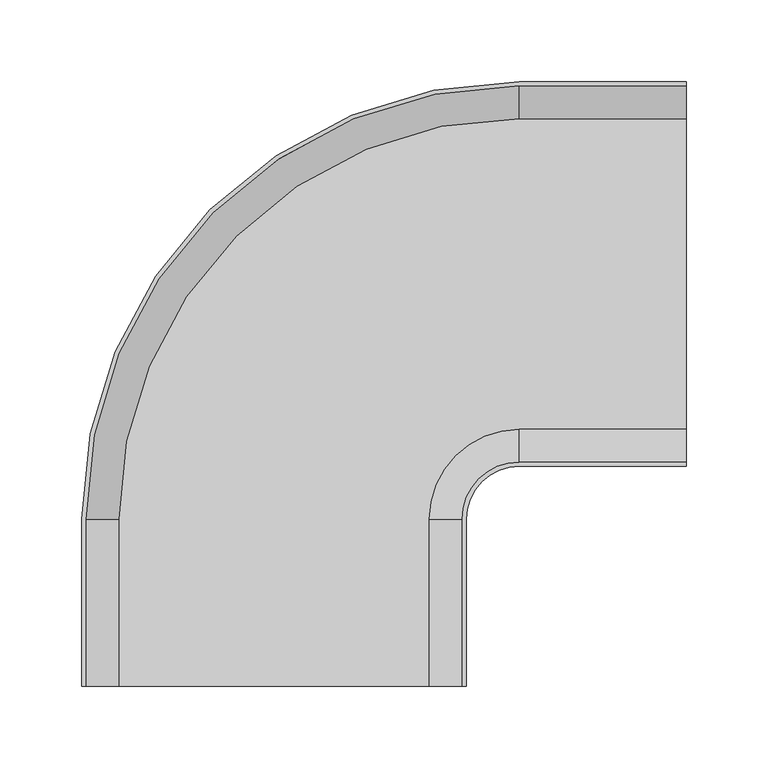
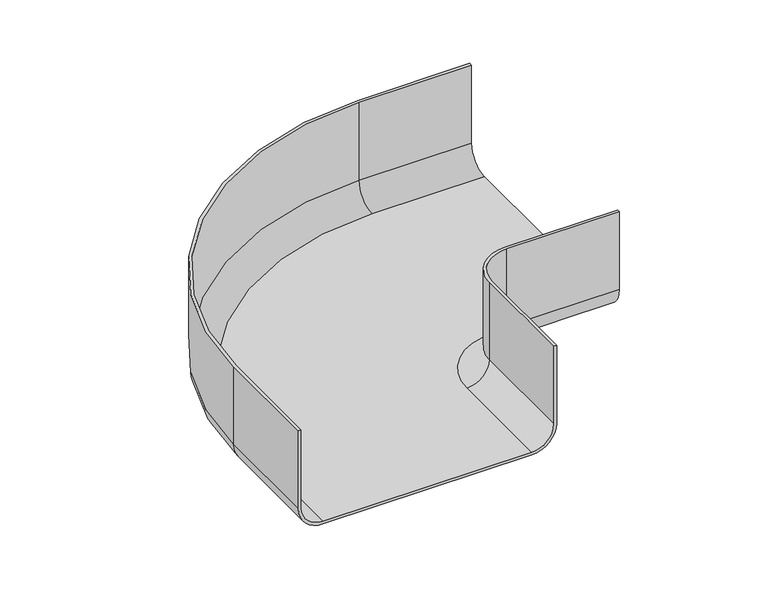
"""IFC4 building model written with IfcOpenShell, lengths in millimetres: cable carrier fitting geometry, CCT_Hyperline_FBTR_ELB90 Горизонтальный изгиб на 90° пластиковый : Горизонтальный изгиб на 90° пластиковый."""

from ifc_helpers import new_model, si_unit, point, frame, origin, place, context, project, spatial, polyline, circle_curve, ellipse_curve, trimmed, source, transform, mapped, element, save
from ifc_brep_helpers import plane_surface, cylinder_surface, revolved_surface, advanced_brep


def cable_carrier_fitting_38266bb1(model_context):
    return source(origin(), model_context, "Body", "AdvancedBrep", [
        advanced_brep(
        [(252.0, -117.54, -25.0), (252.0, -95.0, -47.54), (252.0, 95.0, -47.54), (252.0, 117.54, -25.0), (252.0, 117.54, 50.0), (252.0, 115.0, 50.0), (252.0, 115.0, -25.0), (252.0, 95.0, -45.0), (252.0, -95.0, -45.0), (252.0, -115.0, -25.0), (252.0, -115.0, 50.0), (252.0, -117.54, 50.0), (150.0, -117.54, -25.0), (150.0, -95.0, -47.54), (150.0, -95.0, -45.0), (150.0, -115.0, -25.0), (150.0, -115.0, 50.0), (115.0, -150.0, 50.0), (115.0, -252.0, 50.0), (117.54, -252.0, 50.0), (117.54, -150.0, 50.0), (150.0, -117.54, 50.0), (95.0, -150.0, -47.54), (117.54, -150.0, -25.0), (115.0, -150.0, -25.0), (95.0, -150.0, -45.0), (117.54, -252.0, -25.0), (115.0, -252.0, -25.0), (95.0, -252.0, -45.0), (-95.0, -252.0, -45.0), (-115.0, -252.0, -25.0), (-115.0, -252.0, 50.0), (-117.54, -252.0, 50.0), (-117.54, -252.0, -25.0), (-95.0, -252.0, -47.54), (95.0, -252.0, -47.54), (150.0, 95.0, -47.54), (150.0, 117.54, -25.0), (150.0, 117.54, 50.0), (-117.54, -150.0, 50.0), (-115.0, -150.0, 50.0), (150.0, 115.0, 50.0), (150.0, 115.0, -25.0), (150.0, 95.0, -45.0), (-117.54, -150.0, -25.0), (-95.0, -150.0, -47.54), (-115.0, -150.0, -25.0), (-95.0, -150.0, -45.0)],
        [
            (0, 1, circle_curve(frame((252.0, -95.0, -25.0), z_axis=(1.0, 0.0, 0.0), x_axis=(0.0, -1.0, 0.0)), 22.54)),
            (1, 2),
            (2, 3, circle_curve(frame((252.0, 95.0, -25.0), z_axis=(1.0, 0.0, 0.0), x_axis=(0.0, -1.0, 0.0)), 22.54)),
            (3, 4),
            (4, 5),
            (5, 6),
            (6, 7, circle_curve(frame((252.0, 95.0, -25.0), z_axis=(-1.0, 0.0, 0.0), x_axis=(0.0, -1.0, 0.0)), 20.0)),
            (7, 8),
            (8, 9, circle_curve(frame((252.0, -95.0, -25.0), z_axis=(-1.0, 0.0, 0.0), x_axis=(0.0, -1.0, 0.0)), 20.0)),
            (9, 10),
            (10, 11),
            (11, 0),
            (0, 12),
            (12, 13, circle_curve(frame((150.0, -95.0, -25.0), z_axis=(1.0, 0.0, 0.0), x_axis=(0.0, -1.0, 0.0)), 22.54)),
            (13, 1),
            (8, 14),
            (14, 15, circle_curve(frame((150.0, -95.0, -25.0), z_axis=(-1.0, 0.0, 0.0), x_axis=(0.0, -1.0, 0.0)), 20.0)),
            (15, 9),
            (15, 16),
            (16, 10),
            (16, 17, circle_curve(frame((150.0, -150.0, 50.0), z_axis=(0.0, 0.0, 1.0), x_axis=(0.0, 1.0, 0.0)), 35.0)),
            (17, 18),
            (18, 19),
            (19, 20),
            (20, 21, circle_curve(frame((150.0, -150.0, 50.0), z_axis=(0.0, 0.0, -1.0), x_axis=(0.0, 1.0, 0.0)), 32.46)),
            (21, 11),
            (21, 12),
            (22, 13, circle_curve(frame((150.0, -150.0, -47.54), z_axis=(0.0, 0.0, -1.0), x_axis=(0.0, 1.0, 0.0)), 55.0)),
            (12, 23, circle_curve(frame((150.0, -150.0, -25.0), z_axis=(0.0, 0.0, 1.0), x_axis=(0.0, 1.0, 0.0)), 32.46)),
            (23, 22, circle_curve(frame((95.0, -150.0, -25.0), z_axis=(0.0, 1.0, 0.0), x_axis=(1.0, 0.0, 0.0)), 22.54)),
            (24, 15, circle_curve(frame((150.0, -150.0, -25.0), z_axis=(0.0, 0.0, -1.0), x_axis=(0.0, 1.0, 0.0)), 35.0)),
            (14, 25, circle_curve(frame((150.0, -150.0, -45.0), z_axis=(0.0, 0.0, 1.0), x_axis=(0.0, 1.0, 0.0)), 55.0)),
            (25, 24, circle_curve(frame((95.0, -150.0, -25.0), z_axis=(0.0, -1.0, 0.0), x_axis=(1.0, 0.0, 0.0)), 20.0)),
            (24, 17),
            (20, 23),
            (26, 19),
            (18, 27),
            (27, 28, circle_curve(frame((95.0, -252.0, -25.0), z_axis=(0.0, 1.0, 0.0), x_axis=(1.0, 0.0, 0.0)), 20.0)),
            (28, 29),
            (29, 30, circle_curve(frame((-95.0, -252.0, -25.0), z_axis=(0.0, 1.0, 0.0), x_axis=(1.0, 0.0, 0.0)), 20.0)),
            (30, 31),
            (31, 32),
            (32, 33),
            (33, 34, circle_curve(frame((-95.0, -252.0, -25.0), z_axis=(0.0, -1.0, 0.0), x_axis=(1.0, 0.0, 0.0)), 22.54)),
            (34, 35),
            (35, 26, circle_curve(frame((95.0, -252.0, -25.0), z_axis=(0.0, -1.0, 0.0), x_axis=(1.0, 0.0, 0.0)), 22.54)),
            (23, 26),
            (35, 22),
            (25, 28),
            (27, 24),
            (2, 36),
            (36, 37, circle_curve(frame((150.0, 95.0, -25.0), z_axis=(1.0, 0.0, 0.0), x_axis=(0.0, -1.0, 0.0)), 22.54)),
            (37, 3),
            (37, 38),
            (38, 4),
            (38, 39, circle_curve(frame((150.0, -150.0, 50.0), z_axis=(0.0, 0.0, 1.0), x_axis=(0.0, 1.0, 0.0)), 267.54)),
            (39, 32),
            (31, 40),
            (40, 41, circle_curve(frame((150.0, -150.0, 50.0), z_axis=(0.0, 0.0, -1.0), x_axis=(0.0, 1.0, 0.0)), 265.0)),
            (41, 5),
            (41, 42),
            (42, 6),
            (42, 43, circle_curve(frame((150.0, 95.0, -25.0), z_axis=(-1.0, 0.0, 0.0), x_axis=(0.0, -1.0, 0.0)), 20.0)),
            (43, 7),
            (44, 37, circle_curve(frame((150.0, -150.0, -25.0), z_axis=(0.0, 0.0, -1.0), x_axis=(0.0, 1.0, 0.0)), 267.54)),
            (36, 45, circle_curve(frame((150.0, -150.0, -47.54), z_axis=(0.0, 0.0, 1.0), x_axis=(0.0, 1.0, 0.0)), 245.0)),
            (45, 44, circle_curve(frame((-95.0, -150.0, -25.0), z_axis=(0.0, 1.0, 0.0), x_axis=(1.0, 0.0, 0.0)), 22.54)),
            (44, 39),
            (46, 42, circle_curve(frame((150.0, -150.0, -25.0), z_axis=(0.0, 0.0, -1.0), x_axis=(0.0, 1.0, 0.0)), 265.0)),
            (40, 46),
            (47, 43, circle_curve(frame((150.0, -150.0, -45.0), z_axis=(0.0, 0.0, -1.0), x_axis=(0.0, 1.0, 0.0)), 245.0)),
            (46, 47, circle_curve(frame((-95.0, -150.0, -25.0), z_axis=(0.0, -1.0, 0.0), x_axis=(1.0, 0.0, 0.0)), 20.0)),
            (45, 34),
            (33, 44),
            (30, 46),
            (29, 47),
        ],
        [
            plane_surface(frame((252.0, -115.0, 0.0), z_axis=(1.0, 0.0, 0.0), x_axis=(0.0, 0.0, 1.0))),
            cylinder_surface(frame((252.0, -95.0, -25.0), z_axis=(1.0, 0.0, 0.0), x_axis=(0.0, -1.0, 0.0)), 22.54),
            revolved_surface(polyline([(150.0, -115.0, -25.0), (252.0, -115.0, -25.0)]), (252.0, -95.0, -25.0), (-1.0, 0.0, 0.0)),
            plane_surface(frame((252.0, -115.0, -25.0), z_axis=(0.0, 1.0, 0.0), x_axis=(-1.0, 0.0, 0.0))),
            plane_surface(frame((252.0, -115.0, 50.0), z_axis=(0.0, 0.0, 1.0), x_axis=(-1.0, 0.0, 0.0))),
            plane_surface(frame((252.0, -117.54, 50.0), z_axis=(0.0, -1.0, 0.0), x_axis=(-1.0, 0.0, 0.0))),
            revolved_surface(trimmed(ellipse_curve(frame((150.0, -95.0, -25.0), z_axis=(1.0, 0.0, 0.0), x_axis=(0.0, -1.0, 0.0)), 22.54, 22.54), [point((150.0, -117.54, -25.0))], [point((150.0, -95.0, -47.54))], True, "CARTESIAN"), (150.0, -150.0, 0.0), (0.0, 0.0, 1.0)),
            revolved_surface(trimmed(ellipse_curve(frame((150.0, -95.0, -25.0), z_axis=(-1.0, 0.0, 0.0), x_axis=(0.0, -1.0, 0.0)), 20.0, 20.0), [point((150.0, -95.0, -45.0))], [point((150.0, -115.0, -25.0))], True, "CARTESIAN"), (150.0, -150.0, 0.0), (0.0, 0.0, 1.0)),
            cylinder_surface(frame((150.0, -150.0, 0.0), z_axis=(0.0, 0.0, 1.0), x_axis=(0.0, 1.0, 0.0)), 35.0),
            revolved_surface(polyline([(150.0, -117.53999999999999, 50.0), (150.0, -117.53999999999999, -25.0)]), (150.0, -150.0, 0.0), (0.0, 0.0, 1.0)),
            plane_surface(frame((115.0, -252.0, 0.0), z_axis=(0.0, -1.0, 0.0), x_axis=(0.0, 0.0, 1.0))),
            cylinder_surface(frame((95.0, -150.0, -25.0), z_axis=(0.0, 1.0, 0.0), x_axis=(1.0, 0.0, 0.0)), 22.54),
            revolved_surface(polyline([(115.0, -252.0, -25.0), (115.0, -150.0, -25.0)]), (95.0, -150.0, -25.0), (0.0, -1.0, 0.0)),
            plane_surface(frame((115.0, -150.0, -25.0), z_axis=(-1.0, 0.0, 0.0), x_axis=(0.0, -1.0, 0.0))),
            plane_surface(frame((117.54, -150.0, 50.0), z_axis=(1.0, 0.0, 0.0), x_axis=(0.0, -1.0, 0.0))),
            cylinder_surface(frame((252.0, 95.0, -25.0), z_axis=(1.0, 0.0, 0.0), x_axis=(0.0, -1.0, 0.0)), 22.54),
            plane_surface(frame((252.0, 117.54, -25.0), z_axis=(0.0, 1.0, 0.0), x_axis=(-1.0, 0.0, 0.0))),
            plane_surface(frame((252.0, 117.54, 50.0), z_axis=(0.0, 0.0, 1.0), x_axis=(-1.0, 0.0, 0.0))),
            plane_surface(frame((252.0, 115.0, 50.0), z_axis=(0.0, -1.0, 0.0), x_axis=(-1.0, 0.0, 0.0))),
            revolved_surface(polyline([(150.0, 75.0, -25.0), (252.0, 75.0, -25.0)]), (252.0, 95.0, -25.0), (-1.0, 0.0, 0.0)),
            revolved_surface(trimmed(ellipse_curve(frame((150.0, 95.0, -25.0), z_axis=(1.0, 0.0, 0.0), x_axis=(0.0, -1.0, 0.0)), 22.54, 22.54), [point((150.0, 95.0, -47.54))], [point((150.0, 117.54, -25.0))], True, "CARTESIAN"), (150.0, -150.0, 0.0), (0.0, 0.0, 1.0)),
            cylinder_surface(frame((150.0, -150.0, 0.0), z_axis=(0.0, 0.0, 1.0), x_axis=(0.0, 1.0, 0.0)), 267.54),
            revolved_surface(polyline([(150.0, 115.0, 50.0), (150.0, 115.0, -25.0)]), (150.0, -150.0, 0.0), (0.0, 0.0, 1.0)),
            revolved_surface(trimmed(ellipse_curve(frame((150.0, 95.0, -25.0), z_axis=(-1.0, 0.0, 0.0), x_axis=(0.0, -1.0, 0.0)), 20.0, 20.0), [point((150.0, 115.0, -25.0))], [point((150.0, 95.0, -45.0))], True, "CARTESIAN"), (150.0, -150.0, 0.0), (0.0, 0.0, 1.0)),
            cylinder_surface(frame((-95.0, -150.0, -25.0), z_axis=(0.0, 1.0, 0.0), x_axis=(1.0, 0.0, 0.0)), 22.54),
            plane_surface(frame((-117.54, -150.0, -25.0), z_axis=(-1.0, 0.0, 0.0), x_axis=(0.0, -1.0, 0.0))),
            plane_surface(frame((-115.0, -150.0, 50.0), z_axis=(1.0, 0.0, 0.0), x_axis=(0.0, -1.0, 0.0))),
            revolved_surface(polyline([(-75.0, -252.0, -25.0), (-75.0, -150.0, -25.0)]), (-95.0, -150.0, -25.0), (0.0, -1.0, 0.0)),
            plane_surface(frame((252.0, -95.0, -47.54), z_axis=(0.0, 0.0, -1.0), x_axis=(-1.0, 0.0, 0.0))),
            plane_surface(frame((252.0, 95.0, -45.0), z_axis=(0.0, 0.0, 1.0), x_axis=(-1.0, 0.0, 0.0))),
        ],
        [
            (0, [[1, 2, 3, 4, 5, 6, 7, 8, 9, 10, 11, 12]]),
            (1, [[-1, 13, 14, 15]]),
            (2, [[-9, 16, 17, 18]]),
            (3, [[-10, -18, 19, 20]]),
            (4, [[-11, -20, 21, 22, 23, 24, 25, 26]]),
            (5, [[-12, -26, 27, -13]]),
            (6, [[28, -14, 29, 30]]),
            (7, [[31, -17, 32, 33]]),
            (8, [[-21, -19, -31, 34]]),
            (9, [[-29, -27, -25, 35]]),
            (10, [[36, -23, 37, 38, 39, 40, 41, 42, 43, 44, 45, 46]]),
            (11, [[-30, 47, -46, 48]]),
            (12, [[-33, 49, -38, 50]]),
            (13, [[-34, -50, -37, -22]]),
            (14, [[-35, -24, -36, -47]]),
            (15, [[-3, 51, 52, 53]]),
            (16, [[-4, -53, 54, 55]]),
            (17, [[-5, -55, 56, 57, -42, 58, 59, 60]]),
            (18, [[-6, -60, 61, 62]]),
            (19, [[-7, -62, 63, 64]]),
            (20, [[65, -52, 66, 67]]),
            (21, [[-56, -54, -65, 68]]),
            (22, [[69, -61, -59, 70]]),
            (23, [[71, -63, -69, 72]]),
            (24, [[-67, 73, -44, 74]]),
            (25, [[-68, -74, -43, -57]]),
            (26, [[-70, -58, -41, 75]]),
            (27, [[-72, -75, -40, 76]]),
            (28, [[-2, -15, -28, -48, -45, -73, -66, -51]]),
            (29, [[-8, -64, -71, -76, -39, -49, -32, -16]]),
        ],
    ),
    ])


if __name__ == "__main__":
    model = new_model("IFC4")
    model_context = context("Model", 3, world=origin())
    ifc_project = project(units=[si_unit("LENGTHUNIT", "METRE", prefix="MILLI")], contexts=[model_context])
    site = spatial("IfcSite", under=ifc_project)
    building = spatial("IfcBuilding", under=site)
    placement = place(None, origin())
    cable_carrier_fitting_shape = cable_carrier_fitting_38266bb1(model_context)
    element("IfcCableCarrierFitting", 1, ObjectType="CCT_Hyperline_FBTR_ELB90 Горизонтальный изгиб на 90° пластиковый : Горизонтальный изгиб на 90° пластиковый", at=placement, inside=building, context=model_context, shape_type="MappedRepresentation", body=[
        mapped(cable_carrier_fitting_shape, transform((0.0, 0.0, 0.0), x_axis=(1.0, 0.0, 0.0), y_axis=(0.0, 1.0, 0.0), z_axis=(0.0, 0.0, 1.0))),
    ])
    save(model, "model.ifc")
